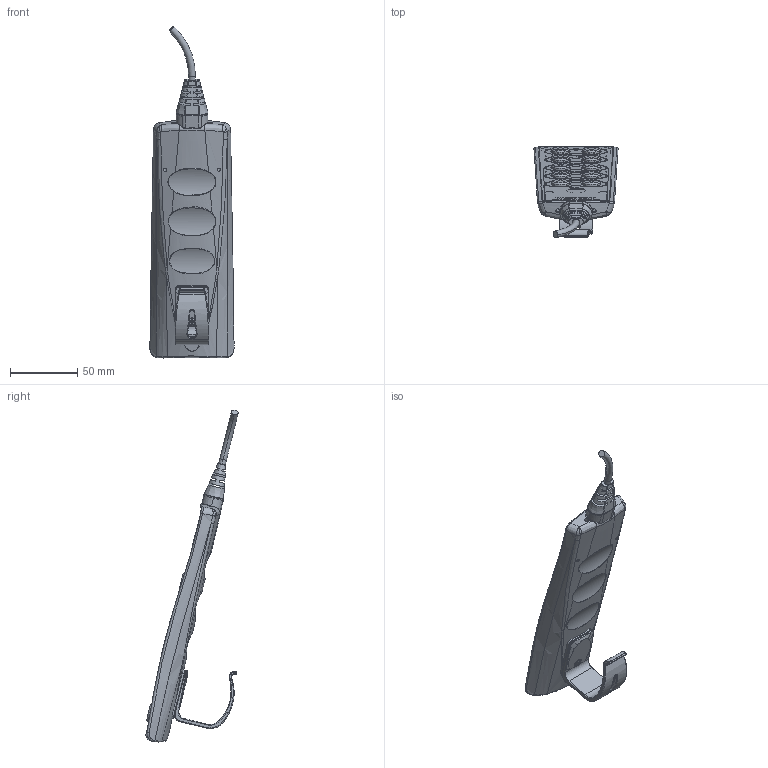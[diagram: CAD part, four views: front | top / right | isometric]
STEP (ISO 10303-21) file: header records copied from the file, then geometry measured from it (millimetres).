
FILE_DESCRIPTION (( 'STEP AP203' ), '1' );
FILE_NAME ('H3T-M-11.STEP', '2021-08-13T05:22:34', ( '' ), ( '' ), 'SwSTEP 2.0', 'SolidWorks 2020', '' );
FILE_SCHEMA (( 'CONFIG_CONTROL_DESIGN' ));
Length unit declared in the file: millimetre
Products named in the file (1): H3T-M-11
Bounding box: 62.48 x 68.49 x 246.46 mm (x, y, z)
Surface area: 43436 mm2 (no closed solid volume)
Topology: 0 solids, 26 shells, 688 faces, 2109 edges, 1427 vertices
Faces by surface type: plane 225, bspline 184, cylinder 178, torus 84, cone 17
Entity records: 50444 total; most frequent: CARTESIAN_POINT 33962, ORIENTED_EDGE 3513, DIRECTION 2672, EDGE_CURVE 2108, VERTEX_POINT 1427, AXIS2_PLACEMENT_3D 1007, B_SPLINE_CURVE_WITH_KNOTS 915, EDGE_LOOP 792
